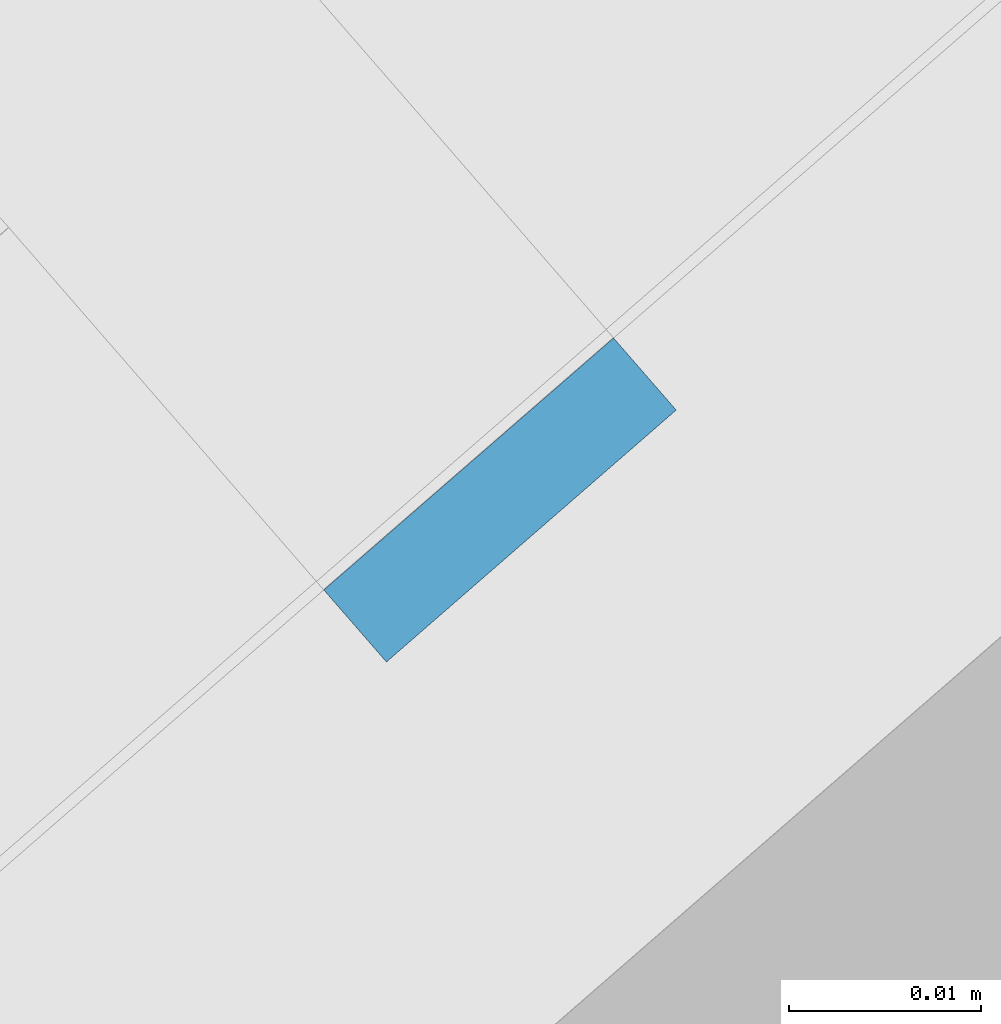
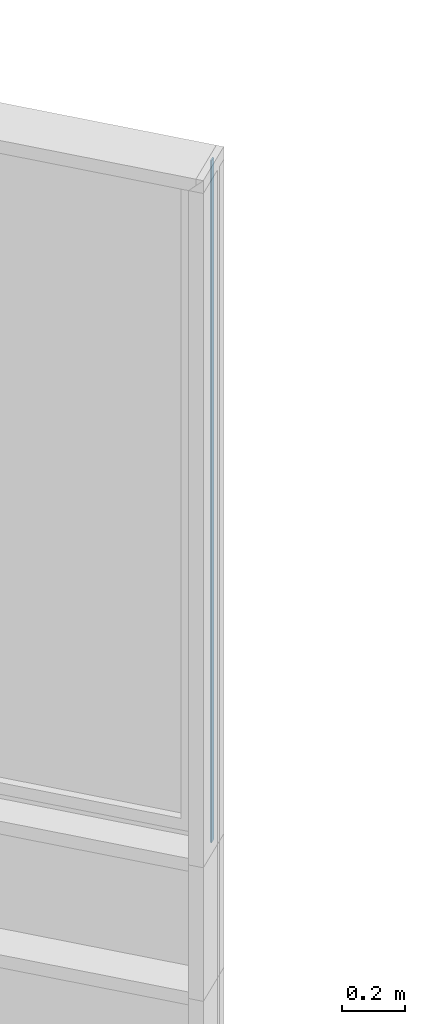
# One storey, part 54 of 390: 1 discrete accessory, 1 element without a shape of its own.
"""IFC2X3 building model written with IfcOpenShell, lengths in millimetres."""

import ifcopenshell
import ifcopenshell.guid

model = None  # the IFC model being written
_history = None  # IfcOwnerHistory: only IFC2X3 demands one
_inside = {}  # id of a spatial element -> (the spatial element, [elements in it])
_under = {}  # id of a project, library or spatial element -> (it, [spatial elements below it])
_declared = {}  # id of a project -> (the project, [libraries it declares])
_typed = {}  # id of a type object -> (the type object, [elements of that type])
_made_of = {}  # id of a material, layer set ... -> (it, [elements and type objects made of it])


def new_model(schema):
    """Start an empty IFC model of exactly this schema.

    Asked for "IFC4X3", IfcOpenShell would pick the latest addendum, in which some entities
    have other attributes; the version numbers below select the first issue.
    IFC2X3 requires an IfcOwnerHistory on every rooted entity: one is made here for all.
    """
    global model, _history
    if schema == "IFC4X3":
        model = ifcopenshell.file(schema_version=(4, 3, 0, 0))
    else:
        model = ifcopenshell.file(schema=schema)
    _inside.clear()
    _under.clear()
    _declared.clear()
    _typed.clear()
    _made_of.clear()
    _history = None
    if model.schema == "IFC2X3":
        org = make("IfcOrganization", Name="unknown")
        user = make(
            "IfcPersonAndOrganization",
            ThePerson=make("IfcPerson", FamilyName="unknown"),
            TheOrganization=org,
        )
        app = make(
            "IfcApplication",
            ApplicationDeveloper=org,
            Version="unknown",
            ApplicationFullName="unknown",
            ApplicationIdentifier="unknown",
        )
        _history = make(
            "IfcOwnerHistory",
            OwningUser=user,
            OwningApplication=app,
            ChangeAction="ADDED",
            CreationDate=0,
        )
    return model


def make(cls, **values):
    """One entity of the class cls with the attributes given. An attribute that is None is left unset."""
    return model.create_entity(
        cls, **{name: value for name, value in values.items() if value is not None}
    )


def entity(cls, *values):
    """Any entity or typed value of the class cls, its attributes in the order of the schema. None: left unset."""
    e = model.create_entity(cls)
    for i, value in enumerate(values):
        if value is not None:
            e[i] = value
    return e


def rooted(cls, **values):
    """An entity with a GlobalId (a new one), such as an element, a storey or a relation."""
    return make(cls, GlobalId=ifcopenshell.guid.new(), OwnerHistory=_history, **values)


def si_unit(unit_type, name, prefix=None):
    """IfcSIUnit, for example si_unit("LENGTHUNIT", "METRE", prefix="MILLI")."""
    return make("IfcSIUnit", UnitType=unit_type, Prefix=prefix, Name=name)


def converted_unit(unit_type, name, factor, base, dimensions=None, offset=None):
    """IfcConversionBasedUnit, such as the inch: factor (a typed value) times the base unit."""
    return make(
        "IfcConversionBasedUnit"
        if offset is None
        else "IfcConversionBasedUnitWithOffset",
        ConversionOffset=offset,
        Dimensions=None
        if dimensions is None
        else entity("IfcDimensionalExponents", *dimensions),
        UnitType=unit_type,
        Name=name,
        ConversionFactor=make(
            "IfcMeasureWithUnit", ValueComponent=factor, UnitComponent=base
        ),
    )


def derived_unit(unit_type, elements):
    """IfcDerivedUnit: a product of units, each with its exponent."""
    return make(
        "IfcDerivedUnit",
        Elements=[
            make("IfcDerivedUnitElement", Unit=unit, Exponent=power)
            for unit, power in elements
        ],
        UnitType=unit_type,
    )


def money_unit(currency):
    """IfcMonetaryUnit."""
    return make("IfcMonetaryUnit", Currency=currency)


def assignment(units):
    """IfcUnitAssignment: the units of a project."""
    return None if units is None else make("IfcUnitAssignment", Units=units)


def point(xyz):
    """IfcCartesianPoint."""
    return None if xyz is None else make("IfcCartesianPoint", Coordinates=xyz)


def direction(xyz):
    """IfcDirection."""
    return None if xyz is None else make("IfcDirection", DirectionRatios=xyz)


def frame(location, z_axis=None, x_axis=None):
    """IfcAxis2Placement3D, a coordinate frame: its origin and axes. An axis left out is left unset."""
    return make(
        "IfcAxis2Placement3D",
        Location=point(location),
        Axis=direction(z_axis),
        RefDirection=direction(x_axis),
    )


def origin_with_axes():
    """The frame at (0, 0, 0) with the z axis (0, 0, 1) and the x axis (1, 0, 0) written out."""
    return frame((0.0, 0.0, 0.0), z_axis=(0.0, 0.0, 1.0), x_axis=(1.0, 0.0, 0.0))


def place(relative_to, where):
    """IfcLocalPlacement: puts the frame where relative to a parent placement (None: the world)."""
    return make(
        "IfcLocalPlacement", PlacementRelTo=relative_to, RelativePlacement=where
    )


def context(
    kind, dimensions, precision=None, world=None, true_north=None, identifier=None
):
    """IfcGeometricRepresentationContext, for example the 3D "Model" context."""
    return make(
        "IfcGeometricRepresentationContext",
        ContextIdentifier=identifier,
        ContextType=kind,
        CoordinateSpaceDimension=dimensions,
        Precision=precision,
        WorldCoordinateSystem=world,
        TrueNorth=true_north,
    )


def subcontext(parent, identifier, kind, view, scale=None):
    """IfcGeometricRepresentationSubContext, for example "Body" below "Model"."""
    return make(
        "IfcGeometricRepresentationSubContext",
        ContextIdentifier=identifier,
        ContextType=kind,
        ParentContext=parent,
        TargetScale=scale,
        TargetView=view,
    )


def project(units=None, contexts=None):
    """IfcProject with its units and contexts."""
    return rooted(
        "IfcProject",
        Name="project",
        RepresentationContexts=contexts,
        UnitsInContext=assignment(units),
    )


def spatial(cls, under=None, at=None, **own):
    """A site, building, storey or space (cls), placed at a placement, below another one or the project."""
    s = rooted(cls, ObjectPlacement=at, **own)
    if under is not None:
        _under.setdefault(under.id(), (under, []))[1].append(s)
    return s


def polyline(points):
    """IfcPolyline through the points."""
    return make("IfcPolyline", Points=[point(p) for p in points])


def outline(outer, holes=None, kind="AREA"):
    """IfcArbitraryClosedProfileDef: a profile drawn as a closed curve; with holes, ...WithVoids."""
    if holes is None:
        return make("IfcArbitraryClosedProfileDef", ProfileType=kind, OuterCurve=outer)
    return make(
        "IfcArbitraryProfileDefWithVoids",
        ProfileType=kind,
        OuterCurve=outer,
        InnerCurves=holes,
    )


def extrude(swept, where, along, depth):
    """IfcExtrudedAreaSolid: the profile swept, set in the frame where, extruded along a direction by depth."""
    return make(
        "IfcExtrudedAreaSolid",
        SweptArea=swept,
        Position=where,
        ExtrudedDirection=direction(along),
        Depth=depth,
    )


def shape(context_of_items, identifier, shape_type, items):
    """IfcShapeRepresentation: the items that make up one representation, for example the "Body"."""
    return make(
        "IfcShapeRepresentation",
        ContextOfItems=context_of_items,
        RepresentationIdentifier=identifier,
        RepresentationType=shape_type,
        Items=items,
    )


def material(Name=None, Category=None):
    """IfcMaterial."""
    return make("IfcMaterial", Name=Name, Category=Category)


def made_of(thing, what):
    """Note that an element or type object is made of a material, layer set ...; save() writes the relation."""
    if what is not None:
        _made_of.setdefault(what.id(), (what, []))[1].append(thing)
    return thing


def type_object(cls, material=None, **own):
    """A type object (cls), such as IfcWallType, which elements share."""
    return made_of(rooted(cls, **own), material)


def element(
    cls,
    number,
    at=None,
    inside=None,
    cuts=None,
    type_object=None,
    material=None,
    context=None,
    identifier="Body",
    shape_type=None,
    held_by="IfcProductDefinitionShape",
    body=None,
    shapes=None,
    **own,
):
    """One element of the class cls, such as IfcWall. Its Tag is "e" and its number.

    at: its placement. inside: the storey or other place that contains it. cuts: it is an
    opening in that element (IfcRelVoidsElement). A single representation is given by context,
    identifier, shape_type and body (its items); several are given by shapes. held_by: the class
    of the entity that holds the representations. save() writes the other relations.
    """
    e = rooted(cls, Tag="e%d" % number, ObjectPlacement=at, **own)
    if body is not None:
        shapes = [shape(context, identifier, shape_type, body)]
    if shapes is not None:
        e.Representation = make(held_by, Representations=shapes)
    if inside is not None:
        _inside.setdefault(inside.id(), (inside, []))[1].append(e)
    if cuts is not None:
        rooted(
            "IfcRelVoidsElement", RelatingBuildingElement=cuts, RelatedOpeningElement=e
        )
    if type_object is not None:
        _typed.setdefault(type_object.id(), (type_object, []))[1].append(e)
    return made_of(e, material)


def aggregate(whole, parts):
    """IfcRelAggregates: a whole, such as a stair, and the parts it consists of."""
    return rooted("IfcRelAggregates", RelatingObject=whole, RelatedObjects=parts)


def save(model, path):
    """Write the relations noted so far, then the file.

    IfcRelAggregates (storeys below a building ...), IfcRelContainedInSpatialStructure (elements
    in a storey), IfcRelDefinesByType, IfcRelAssociatesMaterial and IfcRelDeclares: one each for
    every whole, place, type object, material and project.
    """
    for whole, parts in _under.values():
        aggregate(whole, parts)
    for where, things in _inside.values():
        rooted(
            "IfcRelContainedInSpatialStructure",
            RelatedElements=things,
            RelatingStructure=where,
        )
    for kind, things in _typed.values():
        rooted("IfcRelDefinesByType", RelatedObjects=things, RelatingType=kind)
    for what, things in _made_of.values():
        rooted("IfcRelAssociatesMaterial", RelatedObjects=things, RelatingMaterial=what)
    for by, libraries in _declared.values():
        rooted("IfcRelDeclares", RelatingContext=by, RelatedDefinitions=libraries)
    model.write(path)


model = new_model("IFC2X3")

# Units and contexts
model_context = context("Model", 3, precision=1e-05, world=origin_with_axes(), true_north=direction((0.0, 1.0)))
body_context = subcontext(model_context, "Body", "Model", "MODEL_VIEW")
ifc_project = project(units=[si_unit("LENGTHUNIT", "METRE", prefix="MILLI"), si_unit("AREAUNIT", "SQUARE_METRE"), si_unit("VOLUMEUNIT", "CUBIC_METRE"), converted_unit("PLANEANGLEUNIT", "DEGREE", entity("IfcPlaneAngleMeasure", 0.0174532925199), si_unit("PLANEANGLEUNIT", "RADIAN"), dimensions=[0, 0, 0, 0, 0, 0, 0]), si_unit("SOLIDANGLEUNIT", "STERADIAN"), money_unit("EUR"), converted_unit("TIMEUNIT", "Year", entity("IfcTimeMeasure", 31556926.0), si_unit("TIMEUNIT", "SECOND"), dimensions=[0, 0, 1, 0, 0, 0, 0]), si_unit("MASSUNIT", "GRAM", prefix="KILO"), si_unit("THERMODYNAMICTEMPERATUREUNIT", "DEGREE_CELSIUS"), si_unit("LUMINOUSINTENSITYUNIT", "LUMEN"), si_unit("ENERGYUNIT", "JOULE", prefix="MEGA"), derived_unit("THERMALCONDUCTANCEUNIT", [(si_unit("POWERUNIT", "WATT"), 1), (si_unit("LENGTHUNIT", "METRE"), -1), (si_unit("THERMODYNAMICTEMPERATUREUNIT", "KELVIN"), -1)]), derived_unit("SPECIFICHEATCAPACITYUNIT", [(si_unit("ENERGYUNIT", "JOULE"), 1), (si_unit("MASSUNIT", "GRAM", prefix="KILO"), -1), (si_unit("THERMODYNAMICTEMPERATUREUNIT", "KELVIN"), -1)]), derived_unit("MASSDENSITYUNIT", [(si_unit("MASSUNIT", "GRAM", prefix="KILO"), 1), (si_unit("VOLUMEUNIT", "CUBIC_METRE"), -1)])], contexts=[model_context])

# Site, building, storey
site_placement = place(None, origin_with_axes())
site = spatial("IfcSite", under=ifc_project, at=site_placement, Name="Site", CompositionType="ELEMENT")
building_placement = place(site_placement, origin_with_axes())
building = spatial("IfcBuilding", under=site, at=building_placement, Name="Building", CompositionType="ELEMENT")
storey_placement = place(building_placement, origin_with_axes())
storey = spatial("IfcBuildingStorey", under=building, at=storey_placement, Name="1 korrus", CompositionType="ELEMENT", Elevation=0.0)

# Curtain wall, discrete accessory
curtain_wall_type = type_object("IfcCurtainWallType", Name="KLF-17", PredefinedType="NOTDEFINED")
curtain_wall_placement = place(storey_placement, frame((175630.823927, 104534.758561, -0.000216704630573), z_axis=(0.0, 0.0, 1.0), x_axis=(1.0, 0.0, 0.0)))
curtain_wall = element("IfcCurtainWall", 1, at=curtain_wall_placement, inside=storey, type_object=curtain_wall_type, Name="Klaasfassaad")
ifc_material = material(Name="Klaas")
discrete_accessory_type = type_object("IfcDiscreteAccessoryType", Name="5 x 2655 x 20")
discrete_accessory_placement = place(curtain_wall_placement, frame((2901.41286064, -3337.69369119, 6577.50341211), z_axis=(0.0, 0.0, 1.0), x_axis=(-0.65605902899, 0.754709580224, 0.0)))
discrete_accessory = element("IfcDiscreteAccessory", 2, at=discrete_accessory_placement, type_object=discrete_accessory_type, material=ifc_material, Name="KLF-17 klaaspakett", context=body_context, shape_type="SweptSolid", body=[
    extrude(outline(polyline([(7.51247818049, -1317.50318898), (12.4874970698, -1317.50318898), (12.4874970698, 1337.50319541), (7.51247818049, 1337.50319541), (7.51247818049, -1317.50318898)])), frame((0.0, -10.0, 0.0), z_axis=(0.0, 1.0, 0.0), x_axis=(1.0, 0.0, 0.0)), (0.0, 0.0, 1.0), 20.0),
])
aggregate(curtain_wall, [discrete_accessory])

save(model, "model.ifc")
